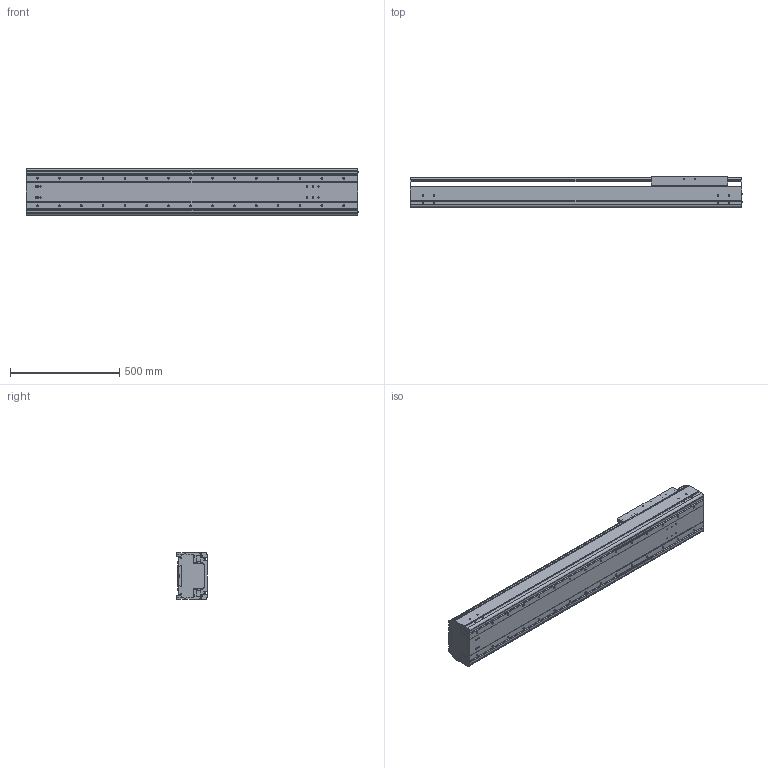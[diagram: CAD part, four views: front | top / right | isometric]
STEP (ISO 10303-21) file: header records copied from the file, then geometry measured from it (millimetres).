
FILE_DESCRIPTION((''),'2;1');
FILE_NAME('BE60G-ST-L_N-A5_IGS_PRT','2017-06-18T',(' '),(''),'PRO/ENGINEER BY PARAMETRIC TECHNOLOGY CORPORATION, 2015030','PRO/ENGINEER BY PARAMETRIC TECHNOLOGY CORPORATION, 2015030','');
FILE_SCHEMA(('CONFIG_CONTROL_DESIGN'));
Length unit declared in the file: millimetre
Products named in the file (1): BE60G-ST-L_N-A5_IGS_PRT
Bounding box: 1517.4 x 140 x 214 mm (x, y, z)
Volume: 12514401.4 mm3; surface area: 3286228.5 mm2
Topology: 2 solids, 152 shells, 1630 faces, 4554 edges, 2989 vertices
Faces by surface type: cylinder 840, plane 622, cone 120, sphere 24, torus 24
Entity records: 54424 total; most frequent: CARTESIAN_POINT 12384, DIRECTION 8834, ORIENTED_EDGE 8280, EDGE_CURVE 4436, AXIS2_PLACEMENT_3D 3301, VERTEX_POINT 2988, VECTOR 2232, LINE 2232
